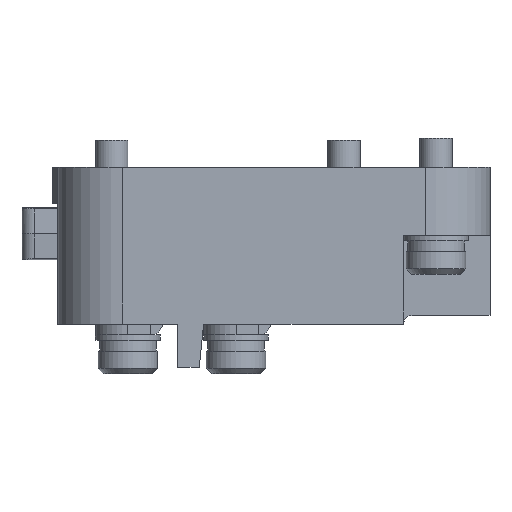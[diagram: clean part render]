
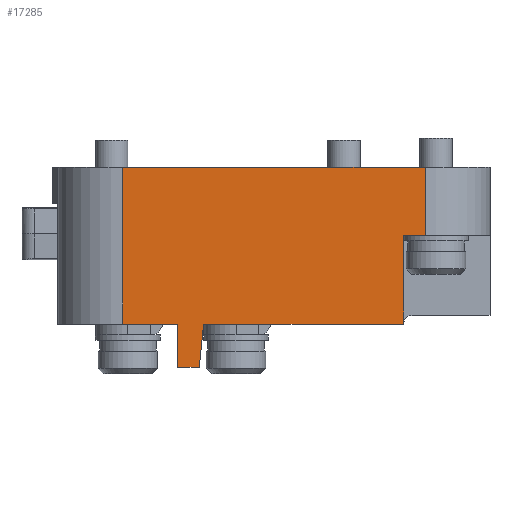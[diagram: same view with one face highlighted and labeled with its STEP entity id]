
A CAD part, front view. The second image highlights one B-rep face of the part: STEP entity #17285.
In plain terms, the highlighted planar face has unit normal (0, -1, 0).
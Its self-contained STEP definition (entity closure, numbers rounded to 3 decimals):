
#319 = DIRECTION ( 'NONE',  ( 1., 0., 0. ) ) ;
#406 = CARTESIAN_POINT ( 'NONE',  ( -7.279, -6.776, 10.257 ) ) ;
#492 = VERTEX_POINT ( 'NONE', #22651 ) ;
#600 = EDGE_LOOP ( 'NONE', ( #24470, #12599, #21818, #8119, #22557, #1519, #5920, #4938, #6964, #5179 ) ) ;
#761 = VECTOR ( 'NONE', #14826, 1000. ) ;
#1423 = VERTEX_POINT ( 'NONE', #12238 ) ;
#1446 = EDGE_CURVE ( 'NONE', #21423, #1423, #11540, .T. ) ;
#1519 = ORIENTED_EDGE ( 'NONE', *, *, #24318, .T. ) ;
#2323 = DIRECTION ( 'NONE',  ( 0., 0., -1. ) ) ;
#2679 = CARTESIAN_POINT ( 'NONE',  ( -35.279, -6.776, 2.057 ) ) ;
#2688 = CARTESIAN_POINT ( 'NONE',  ( -9.279, -6.776, 10.257 ) ) ;
#3327 = DIRECTION ( 'NONE',  ( 0., 0., 1. ) ) ;
#3680 = CARTESIAN_POINT ( 'NONE',  ( -35.279, -6.776, 2.057 ) ) ;
#4179 = CARTESIAN_POINT ( 'NONE',  ( -35.279, -6.776, 16.557 ) ) ;
#4510 = VECTOR ( 'NONE', #16994, 1000. ) ;
#4579 = EDGE_CURVE ( 'NONE', #25759, #17850, #11553, .T. ) ;
#4938 = ORIENTED_EDGE ( 'NONE', *, *, #15499, .F. ) ;
#5179 = ORIENTED_EDGE ( 'NONE', *, *, #11684, .T. ) ;
#5920 = ORIENTED_EDGE ( 'NONE', *, *, #18476, .F. ) ;
#6528 = VECTOR ( 'NONE', #8341, 1000. ) ;
#6964 = ORIENTED_EDGE ( 'NONE', *, *, #10370, .T. ) ;
#7005 = LINE ( 'NONE', #21212, #18201 ) ;
#7754 = VECTOR ( 'NONE', #14825, 1000. ) ;
#8119 = ORIENTED_EDGE ( 'NONE', *, *, #8994, .F. ) ;
#8156 = VERTEX_POINT ( 'NONE', #14854 ) ;
#8341 = DIRECTION ( 'NONE',  ( 1., 0., 0. ) ) ;
#8676 = CARTESIAN_POINT ( 'NONE',  ( -7.279, -6.776, 16.557 ) ) ;
#8994 = EDGE_CURVE ( 'NONE', #21423, #16436, #15857, .T. ) ;
#9001 = CARTESIAN_POINT ( 'NONE',  ( -41.279, -6.776, 10.257 ) ) ;
#9802 = LINE ( 'NONE', #13525, #16501 ) ;
#10108 = VECTOR ( 'NONE', #319, 1000. ) ;
#10121 = CARTESIAN_POINT ( 'NONE',  ( -9.279, -6.776, 10.257 ) ) ;
#10247 = VECTOR ( 'NONE', #21247, 1000. ) ;
#10293 = LINE ( 'NONE', #25196, #7754 ) ;
#10370 = EDGE_CURVE ( 'NONE', #17910, #492, #10293, .T. ) ;
#11279 = LINE ( 'NONE', #8676, #16734 ) ;
#11316 = CARTESIAN_POINT ( 'NONE',  ( -9.279, -6.776, 2.057 ) ) ;
#11540 = LINE ( 'NONE', #20714, #13766 ) ;
#11553 = LINE ( 'NONE', #2688, #4510 ) ;
#11684 = EDGE_CURVE ( 'NONE', #492, #17850, #19033, .T. ) ;
#11884 = EDGE_CURVE ( 'NONE', #16436, #26301, #11279, .T. ) ;
#12238 = CARTESIAN_POINT ( 'NONE',  ( -35.279, -6.776, 2.057 ) ) ;
#12586 = VERTEX_POINT ( 'NONE', #13201 ) ;
#12599 = ORIENTED_EDGE ( 'NONE', *, *, #25405, .F. ) ;
#13201 = CARTESIAN_POINT ( 'NONE',  ( -30.179, -6.776, 2.057 ) ) ;
#13525 = CARTESIAN_POINT ( 'NONE',  ( -30.179, -6.776, -1.943 ) ) ;
#13766 = VECTOR ( 'NONE', #2323, 1000. ) ;
#14825 = DIRECTION ( 'NONE',  ( 0.099, 0., 0.995 ) ) ;
#14826 = DIRECTION ( 'NONE',  ( 1., 0., 0. ) ) ;
#14854 = CARTESIAN_POINT ( 'NONE',  ( -30.179, -6.776, -1.943 ) ) ;
#15499 = EDGE_CURVE ( 'NONE', #17910, #8156, #9802, .T. ) ;
#15857 = LINE ( 'NONE', #4179, #10108 ) ;
#16436 = VERTEX_POINT ( 'NONE', #18380 ) ;
#16501 = VECTOR ( 'NONE', #19469, 1000. ) ;
#16669 = DIRECTION ( 'NONE',  ( 0., 0., 1. ) ) ;
#16734 = VECTOR ( 'NONE', #20813, 1000. ) ;
#16994 = DIRECTION ( 'NONE',  ( 0., 0., -1. ) ) ;
#17285 = ADVANCED_FACE ( 'NONE', ( #19560 ), #19631, .F. ) ;
#17850 = VERTEX_POINT ( 'NONE', #11316 ) ;
#17910 = VERTEX_POINT ( 'NONE', #19504 ) ;
#18080 = LINE ( 'NONE', #2679, #761 ) ;
#18201 = VECTOR ( 'NONE', #16669, 1000. ) ;
#18380 = CARTESIAN_POINT ( 'NONE',  ( -7.279, -6.776, 16.557 ) ) ;
#18476 = EDGE_CURVE ( 'NONE', #8156, #12586, #7005, .T. ) ;
#18658 = AXIS2_PLACEMENT_3D ( 'NONE', #23785, #25820, #3327 ) ;
#19033 = LINE ( 'NONE', #3680, #6528 ) ;
#19469 = DIRECTION ( 'NONE',  ( -1., 0., 0. ) ) ;
#19504 = CARTESIAN_POINT ( 'NONE',  ( -28.178, -6.776, -1.943 ) ) ;
#19560 = FACE_OUTER_BOUND ( 'NONE', #600, .T. ) ;
#19631 = PLANE ( 'NONE',  #18658 ) ;
#20714 = CARTESIAN_POINT ( 'NONE',  ( -35.279, -6.776, 16.557 ) ) ;
#20813 = DIRECTION ( 'NONE',  ( 0., 0., -1. ) ) ;
#21212 = CARTESIAN_POINT ( 'NONE',  ( -30.179, -6.776, -1.943 ) ) ;
#21247 = DIRECTION ( 'NONE',  ( -1., 0., 0. ) ) ;
#21423 = VERTEX_POINT ( 'NONE', #21509 ) ;
#21509 = CARTESIAN_POINT ( 'NONE',  ( -35.279, -6.776, 16.557 ) ) ;
#21818 = ORIENTED_EDGE ( 'NONE', *, *, #11884, .F. ) ;
#22557 = ORIENTED_EDGE ( 'NONE', *, *, #1446, .T. ) ;
#22651 = CARTESIAN_POINT ( 'NONE',  ( -27.779, -6.776, 2.057 ) ) ;
#23785 = CARTESIAN_POINT ( 'NONE',  ( -35.279, -6.776, 16.557 ) ) ;
#24318 = EDGE_CURVE ( 'NONE', #1423, #12586, #18080, .T. ) ;
#24470 = ORIENTED_EDGE ( 'NONE', *, *, #4579, .F. ) ;
#25196 = CARTESIAN_POINT ( 'NONE',  ( -26.42, -6.776, 15.673 ) ) ;
#25370 = LINE ( 'NONE', #9001, #10247 ) ;
#25405 = EDGE_CURVE ( 'NONE', #26301, #25759, #25370, .T. ) ;
#25759 = VERTEX_POINT ( 'NONE', #10121 ) ;
#25820 = DIRECTION ( 'NONE',  ( 0., 1., 0. ) ) ;
#26301 = VERTEX_POINT ( 'NONE', #406 ) ;
